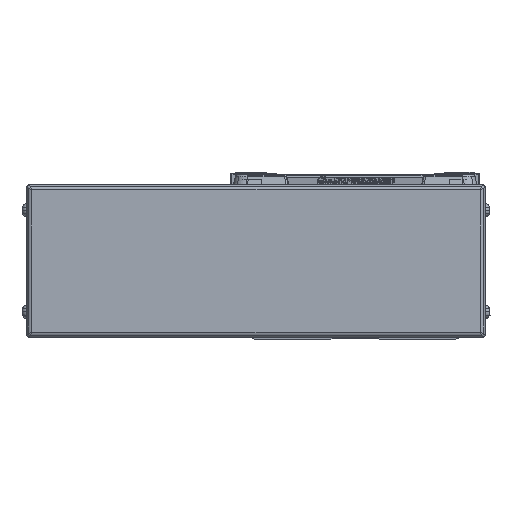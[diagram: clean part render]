
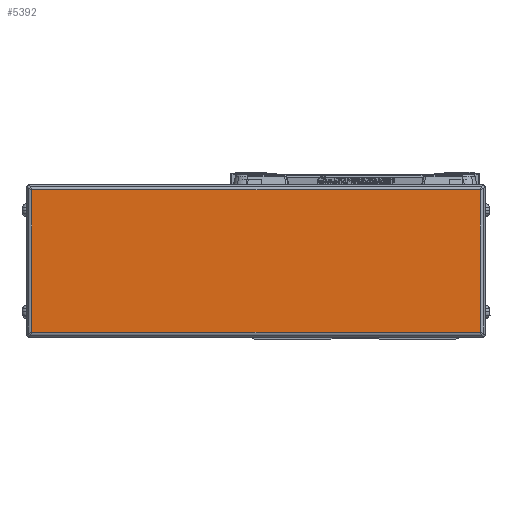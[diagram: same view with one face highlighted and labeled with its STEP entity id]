
A CAD part, left-side view. The second image highlights one B-rep face of the part: STEP entity #5392.
In plain terms, the highlighted planar face has unit normal (-1, 0, 0).
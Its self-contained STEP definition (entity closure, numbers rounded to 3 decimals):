
#5392=ADVANCED_FACE('',(#11130),#11131,.F.);
#11130=FACE_OUTER_BOUND('',#17800,.T.);
#11131=PLANE('',#17801);
#17800=EDGE_LOOP('',(#33520,#33521,#33522,#33523));
#17801=AXIS2_PLACEMENT_3D('',#33524,#33525,#33526);
#33520=ORIENTED_EDGE('',*,*,#36795,.T.);
#33521=ORIENTED_EDGE('',*,*,#42425,.T.);
#33522=ORIENTED_EDGE('',*,*,#42426,.T.);
#33523=ORIENTED_EDGE('',*,*,#40607,.T.);
#33524=CARTESIAN_POINT('',(-616.,39.,0.));
#33525=DIRECTION('',(1.0,0.,0.));
#33526=DIRECTION('',(0.,0.,1.0));
#36795=EDGE_CURVE('',#44174,#44172,#44175,.T.);
#40607=EDGE_CURVE('',#50035,#44174,#50155,.T.);
#42425=EDGE_CURVE('',#44172,#50413,#52359,.T.);
#42426=EDGE_CURVE('',#50413,#50035,#52360,.T.);
#44172=VERTEX_POINT('',#54549);
#44174=VERTEX_POINT('',#54551);
#44175=LINE('',#54552,#54553);
#50035=VERTEX_POINT('',#62689);
#50155=LINE('',#62856,#62857);
#50413=VERTEX_POINT('',#63263);
#52359=LINE('',#65938,#65939);
#52360=LINE('',#65940,#65941);
#54549=CARTESIAN_POINT('',(-616.0,127.2,28.));
#54551=CARTESIAN_POINT('',(-616.,-49.2,28.));
#54552=CARTESIAN_POINT('',(-616.,39.,28.));
#54553=VECTOR('',#67519,10.0);
#62689=CARTESIAN_POINT('',(-616.,-49.2,-28.));
#62856=CARTESIAN_POINT('',(-616.,-49.2,0.));
#62857=VECTOR('',#72643,10.0);
#63263=CARTESIAN_POINT('',(-616.0,127.2,-28.));
#65938=CARTESIAN_POINT('',(-616.0,127.2,0.));
#65939=VECTOR('',#74726,10.0);
#65940=CARTESIAN_POINT('',(-616.0,39.,-28.));
#65941=VECTOR('',#74727,10.0);
#67519=DIRECTION('',(0.,1.0,0.));
#72643=DIRECTION('',(0.,0.,1.0));
#74726=DIRECTION('',(0.,0.,-1.0));
#74727=DIRECTION('',(0.,-1.0,0.));
